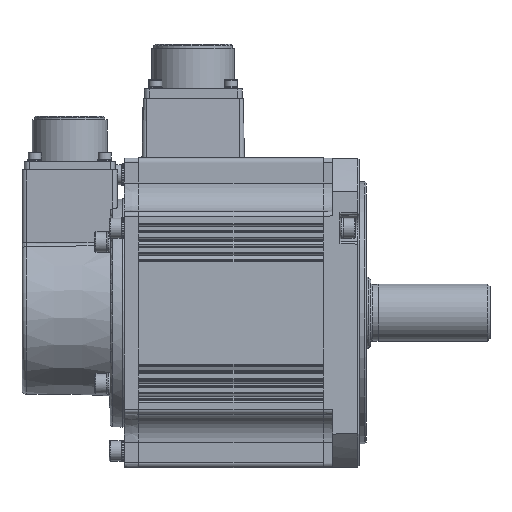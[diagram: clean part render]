
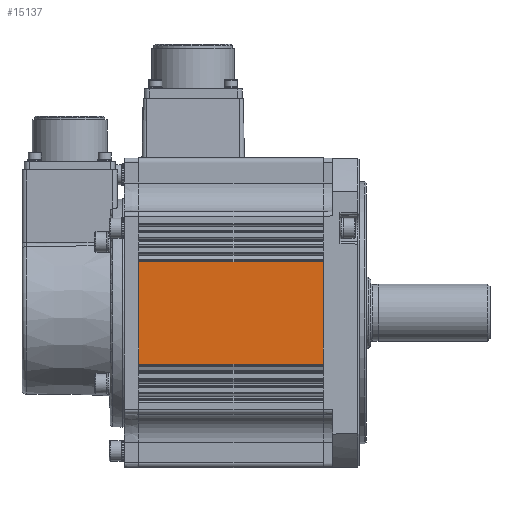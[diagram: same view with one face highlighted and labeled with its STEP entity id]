
A CAD part, left-side view. The second image highlights one B-rep face of the part: STEP entity #15137.
In plain terms, the highlighted planar face has unit normal (-1, 0, 0).
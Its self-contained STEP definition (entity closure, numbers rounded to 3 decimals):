
#10038=CARTESIAN_POINT('',(-65.,92.5,21.534));
#10039=VERTEX_POINT('',#10038);
#10244=CARTESIAN_POINT('',(-65.,92.5,-21.534));
#10245=VERTEX_POINT('',#10244);
#10932=CARTESIAN_POINT('',(-65.,92.5,-21.534));
#10933=DIRECTION('',(0.0,0.0,1.0));
#10934=VECTOR('',#10933,43.067);
#10935=LINE('',#10932,#10934);
#10936=EDGE_CURVE('',#10245,#10039,#10935,.T.);
#15088=CARTESIAN_POINT('',(-65.,15.,21.534));
#15089=VERTEX_POINT('',#15088);
#15090=CARTESIAN_POINT('',(-65.,92.5,21.534));
#15091=DIRECTION('',(0.0,-1.0,0.0));
#15092=VECTOR('',#15091,77.5);
#15093=LINE('',#15090,#15092);
#15094=EDGE_CURVE('',#10039,#15089,#15093,.T.);
#15114=CARTESIAN_POINT('',(-65.,92.5,-40.5));
#15115=DIRECTION('',(-1.0,0.0,0.0));
#15116=DIRECTION('',(0.0,0.0,1.0));
#15117=AXIS2_PLACEMENT_3D('',#15114,#15115,#15116);
#15118=PLANE('',#15117);
#15119=ORIENTED_EDGE('',*,*,#15094,.F.);
#15120=ORIENTED_EDGE('',*,*,#10936,.F.);
#15121=CARTESIAN_POINT('',(-65.,15.,-21.534));
#15122=VERTEX_POINT('',#15121);
#15123=CARTESIAN_POINT('',(-65.,92.5,-21.534));
#15124=DIRECTION('',(0.0,-1.0,0.0));
#15125=VECTOR('',#15124,77.5);
#15126=LINE('',#15123,#15125);
#15127=EDGE_CURVE('',#10245,#15122,#15126,.T.);
#15128=ORIENTED_EDGE('',*,*,#15127,.T.);
#15129=CARTESIAN_POINT('',(-65.,15.,21.534));
#15130=DIRECTION('',(0.0,0.0,-1.0));
#15131=VECTOR('',#15130,43.067);
#15132=LINE('',#15129,#15131);
#15133=EDGE_CURVE('',#15089,#15122,#15132,.T.);
#15134=ORIENTED_EDGE('',*,*,#15133,.F.);
#15135=EDGE_LOOP('',(#15119,#15120,#15128,#15134));
#15136=FACE_OUTER_BOUND('',#15135,.T.);
#15137=ADVANCED_FACE('',(#15136),#15118,.T.);
